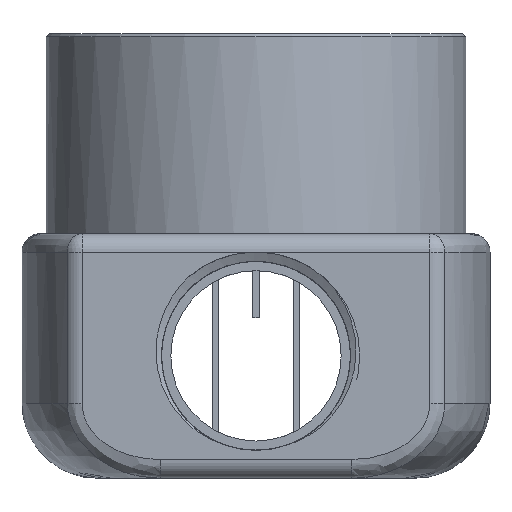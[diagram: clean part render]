
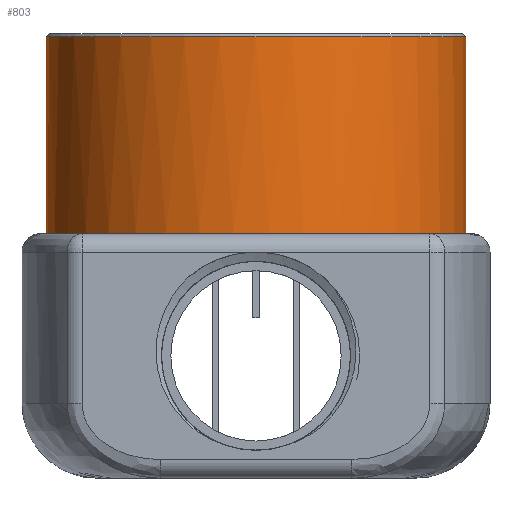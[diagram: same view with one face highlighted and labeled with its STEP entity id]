
A CAD part, front view. The second image highlights one B-rep face of the part: STEP entity #803.
In plain terms, the highlighted cylindrical face has radius 33.65 mm (diameter 67.3 mm), a full revolution.
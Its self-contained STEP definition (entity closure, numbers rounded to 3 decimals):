
#322=ELLIPSE('',#5228,47.588,33.65);
#740=B_SPLINE_CURVE_WITH_KNOTS('',3,(#11809,#11810,#11811,#11812,#11813,
#11814,#11815,#11816,#11817,#11818),.UNSPECIFIED.,.F.,.F.,(4,3,3,4),(0.,
0.249,0.498,1.),.UNSPECIFIED.);
#741=B_SPLINE_CURVE_WITH_KNOTS('',3,(#11821,#11822,#11823,#11824,#11825,
#11826,#11827,#11828,#11829,#11830,#11831,#11832,#11833),.UNSPECIFIED.,
 .F.,.F.,(4,3,3,3,4),(0.,0.249,0.499,0.749,
1.),.UNSPECIFIED.);
#803=ADVANCED_FACE('',(#1164,#1165),#1064,.T.);
#1064=CYLINDRICAL_SURFACE('',#5230,33.65);
#1164=FACE_BOUND('',#1289,.T.);
#1165=FACE_BOUND('',#1290,.T.);
#1289=EDGE_LOOP('',(#2423,#2424,#2425,#2426,#2427,#2428,#2429,#2430));
#1290=EDGE_LOOP('',(#2431));
#1602=LINE('',#11835,#1897);
#1603=LINE('',#11836,#1898);
#1897=VECTOR('',#5971,1.);
#1898=VECTOR('',#5972,1.);
#2423=ORIENTED_EDGE('',*,*,#4215,.F.);
#2424=ORIENTED_EDGE('',*,*,#4088,.F.);
#2425=ORIENTED_EDGE('',*,*,#4216,.F.);
#2426=ORIENTED_EDGE('',*,*,#4084,.F.);
#2427=ORIENTED_EDGE('',*,*,#4217,.F.);
#2428=ORIENTED_EDGE('',*,*,#4218,.T.);
#2429=ORIENTED_EDGE('',*,*,#4091,.T.);
#2430=ORIENTED_EDGE('',*,*,#4219,.F.);
#2431=ORIENTED_EDGE('',*,*,#4220,.T.);
#3622=VERTEX_POINT('',#7238);
#3623=VERTEX_POINT('',#7240);
#3626=VERTEX_POINT('',#7247);
#3627=VERTEX_POINT('',#7249);
#3629=VERTEX_POINT('',#7262);
#3630=VERTEX_POINT('',#7263);
#3707=VERTEX_POINT('',#11819);
#3708=VERTEX_POINT('',#11834);
#3709=VERTEX_POINT('',#11838);
#4084=EDGE_CURVE('',#3622,#3623,#4796,.T.);
#4088=EDGE_CURVE('',#3626,#3627,#4798,.T.);
#4091=EDGE_CURVE('',#3629,#3630,#4800,.T.);
#4215=EDGE_CURVE('',#3627,#3707,#740,.T.);
#4216=EDGE_CURVE('',#3623,#3626,#322,.T.);
#4217=EDGE_CURVE('',#3708,#3622,#741,.T.);
#4218=EDGE_CURVE('',#3708,#3629,#1602,.T.);
#4219=EDGE_CURVE('',#3707,#3630,#1603,.T.);
#4220=EDGE_CURVE('',#3709,#3709,#4849,.T.);
#4796=CIRCLE('',#5131,33.65);
#4798=CIRCLE('',#5134,33.65);
#4800=CIRCLE('',#5137,33.65);
#4849=CIRCLE('',#5229,33.65);
#5131=AXIS2_PLACEMENT_3D('',#7239,#5738,#5739);
#5134=AXIS2_PLACEMENT_3D('',#7248,#5746,#5747);
#5137=AXIS2_PLACEMENT_3D('',#7261,#5752,#5753);
#5228=AXIS2_PLACEMENT_3D('',#11820,#5969,#5970);
#5229=AXIS2_PLACEMENT_3D('',#11837,#5973,#5974);
#5230=AXIS2_PLACEMENT_3D('',#11839,#5975,#5976);
#5738=DIRECTION('',(0.,0.,-1.));
#5739=DIRECTION('',(1.,0.,0.));
#5746=DIRECTION('',(0.,0.,-1.));
#5747=DIRECTION('',(1.,0.,0.));
#5752=DIRECTION('',(0.,0.,1.));
#5753=DIRECTION('',(1.,0.,0.));
#5969=DIRECTION('',(0.,-0.707,-0.707));
#5970=DIRECTION('',(0.,-0.707,0.707));
#5971=DIRECTION('',(0.,0.,-1.));
#5972=DIRECTION('',(0.,0.,-1.));
#5973=DIRECTION('',(0.,0.,-1.));
#5974=DIRECTION('',(1.,0.,0.));
#5975=DIRECTION('',(0.,0.,1.));
#5976=DIRECTION('',(1.,0.,0.));
#7238=CARTESIAN_POINT('',(-32.888,3.12,47.6));
#7239=CARTESIAN_POINT('',(0.,-4.,47.6));
#7240=CARTESIAN_POINT('',(-3.174,29.5,47.6));
#7247=CARTESIAN_POINT('',(3.174,29.5,47.6));
#7248=CARTESIAN_POINT('',(0.,-4.,47.6));
#7249=CARTESIAN_POINT('',(32.888,3.12,47.6));
#7261=CARTESIAN_POINT('',(0.,-4.,19.6));
#7262=CARTESIAN_POINT('',(-33.615,-2.475,19.6));
#7263=CARTESIAN_POINT('',(33.615,-2.475,19.6));
#11809=CARTESIAN_POINT('',(32.888,3.121,47.6));
#11810=CARTESIAN_POINT('',(32.987,2.665,47.526));
#11811=CARTESIAN_POINT('',(33.076,2.207,47.461));
#11812=CARTESIAN_POINT('',(33.156,1.745,47.403));
#11813=CARTESIAN_POINT('',(33.236,1.284,47.345));
#11814=CARTESIAN_POINT('',(33.306,0.82,47.295));
#11815=CARTESIAN_POINT('',(33.367,0.354,47.253));
#11816=CARTESIAN_POINT('',(33.489,-0.582,47.169));
#11817=CARTESIAN_POINT('',(33.572,-1.528,47.118));
#11818=CARTESIAN_POINT('',(33.615,-2.475,47.1));
#11819=CARTESIAN_POINT('',(33.615,-2.475,47.1));
#11820=CARTESIAN_POINT('',(0.,-4.,81.1));
#11821=CARTESIAN_POINT('',(-33.615,-2.475,47.1));
#11822=CARTESIAN_POINT('',(-33.594,-2.004,47.109));
#11823=CARTESIAN_POINT('',(-33.563,-1.533,47.126));
#11824=CARTESIAN_POINT('',(-33.522,-1.064,47.151));
#11825=CARTESIAN_POINT('',(-33.481,-0.595,47.177));
#11826=CARTESIAN_POINT('',(-33.43,-0.127,47.21));
#11827=CARTESIAN_POINT('',(-33.369,0.339,47.252));
#11828=CARTESIAN_POINT('',(-33.308,0.807,47.294));
#11829=CARTESIAN_POINT('',(-33.238,1.272,47.344));
#11830=CARTESIAN_POINT('',(-33.158,1.736,47.402));
#11831=CARTESIAN_POINT('',(-33.077,2.2,47.46));
#11832=CARTESIAN_POINT('',(-32.987,2.662,47.526));
#11833=CARTESIAN_POINT('',(-32.888,3.12,47.6));
#11834=CARTESIAN_POINT('',(-33.615,-2.475,47.1));
#11835=CARTESIAN_POINT('',(-33.615,-2.475,17.35));
#11836=CARTESIAN_POINT('',(33.615,-2.475,17.35));
#11837=CARTESIAN_POINT('',(0.,-4.,51.1));
#11838=CARTESIAN_POINT('',(33.65,-4.,51.1));
#11839=CARTESIAN_POINT('',(0.,-4.,17.35));
